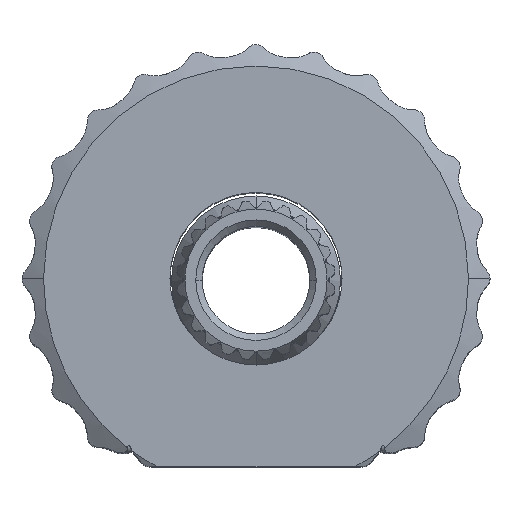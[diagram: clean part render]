
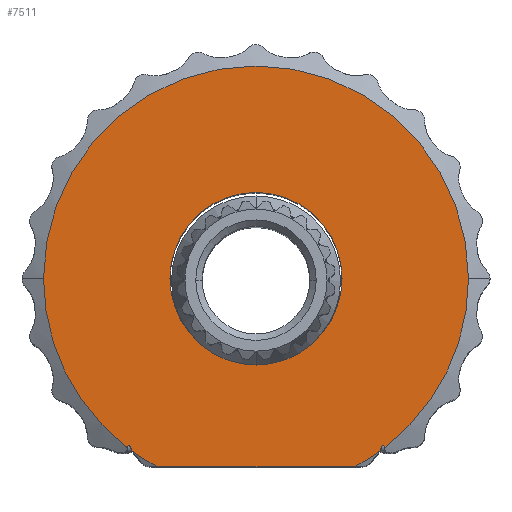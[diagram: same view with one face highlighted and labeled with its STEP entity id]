
A CAD part, top view. The second image highlights one B-rep face of the part: STEP entity #7511.
In plain terms, the highlighted planar face has unit normal (0, 0, 1) as drawn and (0, 0, -1) by its records, which use the part's own axes.
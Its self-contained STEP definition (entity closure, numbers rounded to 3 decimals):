
#43 = VERTEX_POINT ( 'NONE', #657 ) ;
#63 = CARTESIAN_POINT ( 'NONE',  ( -5.874, -7.751, -19. ) ) ;
#248 = CARTESIAN_POINT ( 'NONE',  ( 4., 0., -19. ) ) ;
#358 = VERTEX_POINT ( 'NONE', #14816 ) ;
#657 = CARTESIAN_POINT ( 'NONE',  ( 4.577, -8.75, -19. ) ) ;
#986 = AXIS2_PLACEMENT_3D ( 'NONE', #6734, #10268, #7733 ) ;
#1237 = CARTESIAN_POINT ( 'NONE',  ( -6.045, -7.809, -19. ) ) ;
#1238 = VERTEX_POINT ( 'NONE', #1259 ) ;
#1259 = CARTESIAN_POINT ( 'NONE',  ( 5.752, -8.025, -19. ) ) ;
#1263 = VECTOR ( 'NONE', #5714, 1000. ) ;
#1561 = EDGE_LOOP ( 'NONE', ( #14410, #2106 ) ) ;
#1796 = CARTESIAN_POINT ( 'NONE',  ( 5.874, -7.751, -19. ) ) ;
#2008 = VERTEX_POINT ( 'NONE', #7957 ) ;
#2106 = ORIENTED_EDGE ( 'NONE', *, *, #3134, .T. ) ;
#2123 = CARTESIAN_POINT ( 'NONE',  ( 0., 0., -19. ) ) ;
#2169 = CARTESIAN_POINT ( 'NONE',  ( -4.865, -8.75, -19. ) ) ;
#2423 = CARTESIAN_POINT ( 'NONE',  ( -5.752, -8.025, -19. ) ) ;
#2466 = CARTESIAN_POINT ( 'NONE',  ( 0., 0., -19. ) ) ;
#2480 = CARTESIAN_POINT ( 'NONE',  ( 5.36, -8.513, -19. ) ) ;
#2726 = ORIENTED_EDGE ( 'NONE', *, *, #9208, .T. ) ;
#2876 = VERTEX_POINT ( 'NONE', #248 ) ;
#2996 = EDGE_LOOP ( 'NONE', ( #4760, #12693, #9983, #5007, #6693, #14196, #10978, #3385, #5777, #8140, #2726, #13910 ) ) ;
#3134 = EDGE_CURVE ( 'NONE', #2876, #13484, #4081, .T. ) ;
#3385 = ORIENTED_EDGE ( 'NONE', *, *, #3890, .T. ) ;
#3689 = EDGE_CURVE ( 'NONE', #1238, #14377, #13193, .T. ) ;
#3890 = EDGE_CURVE ( 'NONE', #10983, #5538, #6551, .T. ) ;
#3911 = AXIS2_PLACEMENT_3D ( 'NONE', #4957, #13006, #5949 ) ;
#4030 = CARTESIAN_POINT ( 'NONE',  ( 0., 0., -19. ) ) ;
#4081 = CIRCLE ( 'NONE', #4824, 4. ) ;
#4256 = DIRECTION ( 'NONE',  ( -1., 0., 0. ) ) ;
#4400 = DIRECTION ( 'NONE',  ( 1., 0., 0. ) ) ;
#4495 = DIRECTION ( 'NONE',  ( 0., 0., -1. ) ) ;
#4760 = ORIENTED_EDGE ( 'NONE', *, *, #8654, .F. ) ;
#4824 = AXIS2_PLACEMENT_3D ( 'NONE', #14023, #13164, #11596 ) ;
#4832 = DIRECTION ( 'NONE',  ( 1., 0., 0. ) ) ;
#4918 = AXIS2_PLACEMENT_3D ( 'NONE', #2466, #5747, #4832 ) ;
#4957 = CARTESIAN_POINT ( 'NONE',  ( -6.182, -7.122, -19. ) ) ;
#5007 = ORIENTED_EDGE ( 'NONE', *, *, #13928, .T. ) ;
#5048 = EDGE_CURVE ( 'NONE', #2008, #358, #5134, .T. ) ;
#5134 = CIRCLE ( 'NONE', #986, 9.875 ) ;
#5300 = CARTESIAN_POINT ( 'NONE',  ( -4., 0., -19. ) ) ;
#5538 = VERTEX_POINT ( 'NONE', #12338 ) ;
#5714 = DIRECTION ( 'NONE',  ( 0.408, -0.913, 0. ) ) ;
#5729 = VERTEX_POINT ( 'NONE', #7958 ) ;
#5747 = DIRECTION ( 'NONE',  ( 0., 0., 1. ) ) ;
#5758 = LINE ( 'NONE', #2480, #13453 ) ;
#5777 = ORIENTED_EDGE ( 'NONE', *, *, #9755, .T. ) ;
#5949 = DIRECTION ( 'NONE',  ( 1., 0., 0. ) ) ;
#6405 = CIRCLE ( 'NONE', #8389, 9.875 ) ;
#6426 = CARTESIAN_POINT ( 'NONE',  ( -5.752, -8.025, -19. ) ) ;
#6551 = CIRCLE ( 'NONE', #13644, 9.875 ) ;
#6587 = CIRCLE ( 'NONE', #3911, 0.7 ) ;
#6693 = ORIENTED_EDGE ( 'NONE', *, *, #12232, .F. ) ;
#6711 = DIRECTION ( 'NONE',  ( 0., 0., -1. ) ) ;
#6734 = CARTESIAN_POINT ( 'NONE',  ( 0., 0., -19. ) ) ;
#6752 = LINE ( 'NONE', #2169, #10096 ) ;
#6788 = DIRECTION ( 'NONE',  ( -1., 0., 0. ) ) ;
#6825 = AXIS2_PLACEMENT_3D ( 'NONE', #9393, #4495, #6936 ) ;
#6918 = CARTESIAN_POINT ( 'NONE',  ( -4.577, -8.75, -19. ) ) ;
#6936 = DIRECTION ( 'NONE',  ( -1., 0., 0. ) ) ;
#6939 = LINE ( 'NONE', #2423, #1263 ) ;
#7075 = DIRECTION ( 'NONE',  ( 0.408, 0.913, 0. ) ) ;
#7183 = EDGE_CURVE ( 'NONE', #9295, #43, #11790, .T. ) ;
#7301 = EDGE_CURVE ( 'NONE', #11277, #10402, #6939, .T. ) ;
#7321 = CIRCLE ( 'NONE', #6825, 9.875 ) ;
#7422 = DIRECTION ( 'NONE',  ( 1., 0., 0. ) ) ;
#7511 = ADVANCED_FACE ( 'NONE', ( #10985, #8834 ), #14568, .F. ) ;
#7594 = VERTEX_POINT ( 'NONE', #6918 ) ;
#7602 = EDGE_CURVE ( 'NONE', #7594, #43, #6752, .T. ) ;
#7612 = AXIS2_PLACEMENT_3D ( 'NONE', #4030, #7703, #10162 ) ;
#7703 = DIRECTION ( 'NONE',  ( 0., 0., -1. ) ) ;
#7733 = DIRECTION ( 'NONE',  ( -1., 0., 0. ) ) ;
#7957 = CARTESIAN_POINT ( 'NONE',  ( 9.875, 0., -19. ) ) ;
#7958 = CARTESIAN_POINT ( 'NONE',  ( -5.748, -8.03, -19. ) ) ;
#8007 = DIRECTION ( 'NONE',  ( 0.626, -0.78, 0. ) ) ;
#8140 = ORIENTED_EDGE ( 'NONE', *, *, #5048, .T. ) ;
#8389 = AXIS2_PLACEMENT_3D ( 'NONE', #14722, #11526, #4256 ) ;
#8418 = EDGE_CURVE ( 'NONE', #11277, #10983, #6587, .T. ) ;
#8654 = EDGE_CURVE ( 'NONE', #9295, #1238, #5758, .T. ) ;
#8685 = DIRECTION ( 'NONE',  ( 1., 0., 0. ) ) ;
#8834 = FACE_BOUND ( 'NONE', #1561, .T. ) ;
#9062 = VECTOR ( 'NONE', #8007, 1000. ) ;
#9208 = EDGE_CURVE ( 'NONE', #358, #14377, #12418, .T. ) ;
#9295 = VERTEX_POINT ( 'NONE', #12549 ) ;
#9393 = CARTESIAN_POINT ( 'NONE',  ( 0., 0., -19. ) ) ;
#9453 = CARTESIAN_POINT ( 'NONE',  ( 5.752, -8.025, -19. ) ) ;
#9728 = AXIS2_PLACEMENT_3D ( 'NONE', #14301, #14442, #7422 ) ;
#9755 = EDGE_CURVE ( 'NONE', #5538, #2008, #7321, .T. ) ;
#9983 = ORIENTED_EDGE ( 'NONE', *, *, #7602, .F. ) ;
#9989 = DIRECTION ( 'NONE',  ( 0., 0., 1. ) ) ;
#10096 = VECTOR ( 'NONE', #4400, 1000. ) ;
#10130 = LINE ( 'NONE', #14769, #9062 ) ;
#10162 = DIRECTION ( 'NONE',  ( -1., 0., 0. ) ) ;
#10268 = DIRECTION ( 'NONE',  ( 0., 0., -1. ) ) ;
#10402 = VERTEX_POINT ( 'NONE', #6426 ) ;
#10433 = DIRECTION ( 'NONE',  ( 0.626, 0.78, 0. ) ) ;
#10797 = CIRCLE ( 'NONE', #4918, 4. ) ;
#10978 = ORIENTED_EDGE ( 'NONE', *, *, #8418, .T. ) ;
#10983 = VERTEX_POINT ( 'NONE', #1237 ) ;
#10985 = FACE_OUTER_BOUND ( 'NONE', #2996, .T. ) ;
#11277 = VERTEX_POINT ( 'NONE', #63 ) ;
#11439 = VECTOR ( 'NONE', #7075, 1000. ) ;
#11526 = DIRECTION ( 'NONE',  ( 0., 0., -1. ) ) ;
#11596 = DIRECTION ( 'NONE',  ( 1., 0., 0. ) ) ;
#11790 = CIRCLE ( 'NONE', #7612, 9.875 ) ;
#11818 = AXIS2_PLACEMENT_3D ( 'NONE', #13352, #9989, #8685 ) ;
#11874 = EDGE_CURVE ( 'NONE', #13484, #2876, #10797, .T. ) ;
#12232 = EDGE_CURVE ( 'NONE', #10402, #5729, #10130, .T. ) ;
#12338 = CARTESIAN_POINT ( 'NONE',  ( -9.875, 0., -19. ) ) ;
#12418 = CIRCLE ( 'NONE', #9728, 0.7 ) ;
#12549 = CARTESIAN_POINT ( 'NONE',  ( 5.748, -8.03, -19. ) ) ;
#12693 = ORIENTED_EDGE ( 'NONE', *, *, #7183, .T. ) ;
#13006 = DIRECTION ( 'NONE',  ( 0., 0., -1. ) ) ;
#13164 = DIRECTION ( 'NONE',  ( 0., 0., 1. ) ) ;
#13193 = LINE ( 'NONE', #9453, #11439 ) ;
#13352 = CARTESIAN_POINT ( 'NONE',  ( 0., 0., -19. ) ) ;
#13453 = VECTOR ( 'NONE', #10433, 1000. ) ;
#13484 = VERTEX_POINT ( 'NONE', #5300 ) ;
#13644 = AXIS2_PLACEMENT_3D ( 'NONE', #2123, #6711, #6788 ) ;
#13910 = ORIENTED_EDGE ( 'NONE', *, *, #3689, .F. ) ;
#13928 = EDGE_CURVE ( 'NONE', #7594, #5729, #6405, .T. ) ;
#14023 = CARTESIAN_POINT ( 'NONE',  ( 0., 0., -19. ) ) ;
#14196 = ORIENTED_EDGE ( 'NONE', *, *, #7301, .F. ) ;
#14301 = CARTESIAN_POINT ( 'NONE',  ( 6.182, -7.122, -19. ) ) ;
#14377 = VERTEX_POINT ( 'NONE', #1796 ) ;
#14410 = ORIENTED_EDGE ( 'NONE', *, *, #11874, .T. ) ;
#14442 = DIRECTION ( 'NONE',  ( 0., 0., -1. ) ) ;
#14568 = PLANE ( 'NONE',  #11818 ) ;
#14722 = CARTESIAN_POINT ( 'NONE',  ( 0., 0., -19. ) ) ;
#14769 = CARTESIAN_POINT ( 'NONE',  ( -5.36, -8.513, -19. ) ) ;
#14816 = CARTESIAN_POINT ( 'NONE',  ( 6.045, -7.809, -19. ) ) ;
